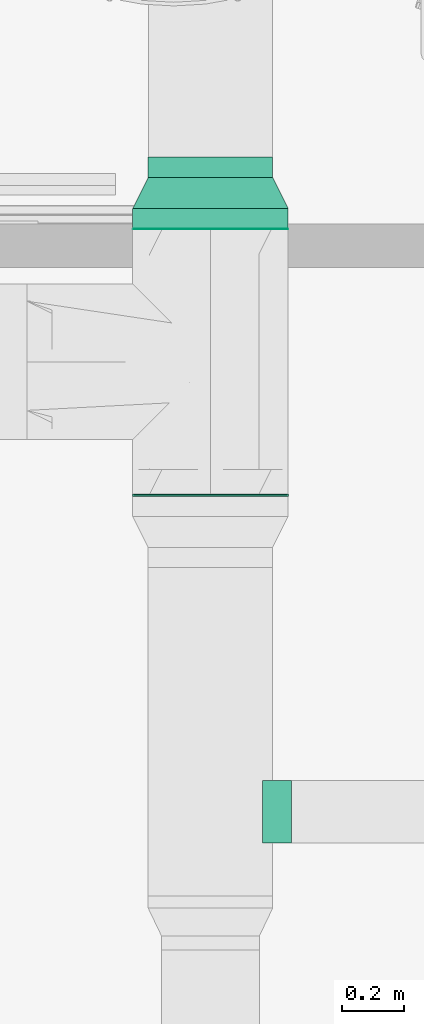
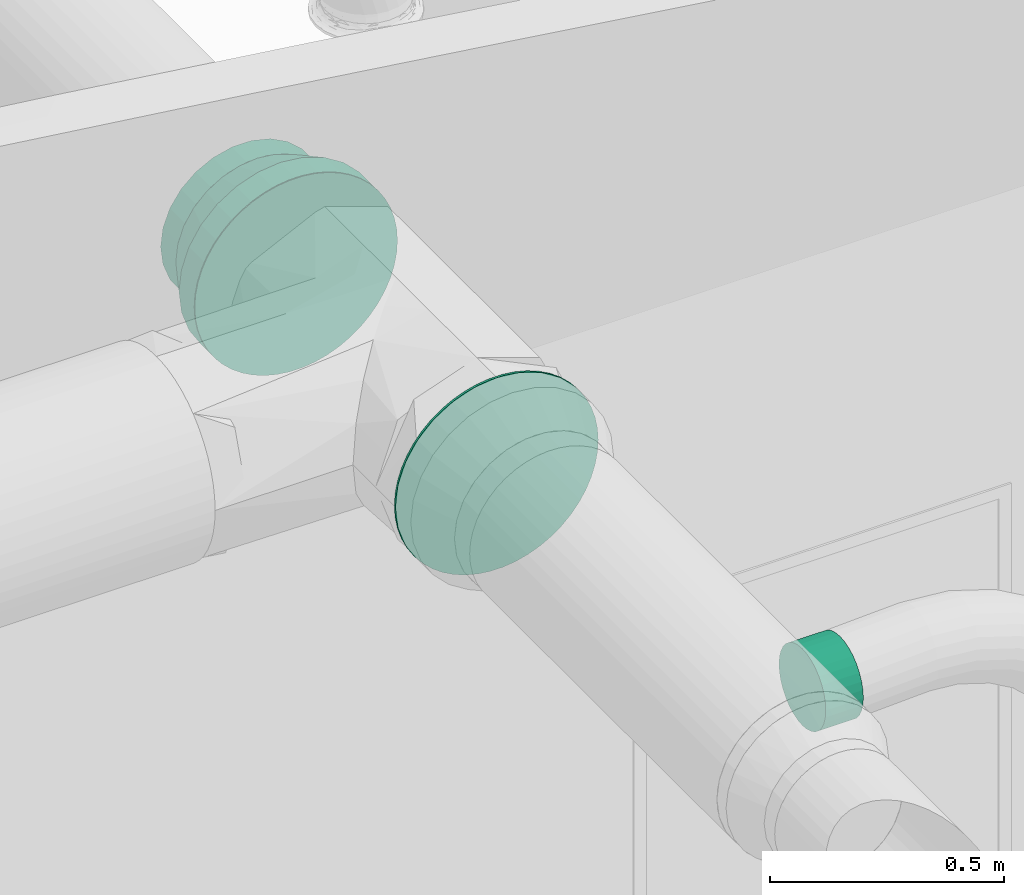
# One storey, part 12 of 31: 2 flow fittings, 2 flow segments.
"""IFC2X3 building model written with IfcOpenShell, lengths in millimetres."""

import ifcopenshell
import ifcopenshell.guid

model = None  # the IFC model being written
_history = None  # IfcOwnerHistory: only IFC2X3 demands one
_inside = {}  # id of a spatial element -> (the spatial element, [elements in it])
_under = {}  # id of a project, library or spatial element -> (it, [spatial elements below it])
_declared = {}  # id of a project -> (the project, [libraries it declares])
_typed = {}  # id of a type object -> (the type object, [elements of that type])
_made_of = {}  # id of a material, layer set ... -> (it, [elements and type objects made of it])


def new_model(schema):
    """Start an empty IFC model of exactly this schema.

    Asked for "IFC4X3", IfcOpenShell would pick the latest addendum, in which some entities
    have other attributes; the version numbers below select the first issue.
    IFC2X3 requires an IfcOwnerHistory on every rooted entity: one is made here for all.
    """
    global model, _history
    if schema == "IFC4X3":
        model = ifcopenshell.file(schema_version=(4, 3, 0, 0))
    else:
        model = ifcopenshell.file(schema=schema)
    _inside.clear()
    _under.clear()
    _declared.clear()
    _typed.clear()
    _made_of.clear()
    _history = None
    if model.schema == "IFC2X3":
        org = make("IfcOrganization", Name="unknown")
        user = make(
            "IfcPersonAndOrganization",
            ThePerson=make("IfcPerson", FamilyName="unknown"),
            TheOrganization=org,
        )
        app = make(
            "IfcApplication",
            ApplicationDeveloper=org,
            Version="unknown",
            ApplicationFullName="unknown",
            ApplicationIdentifier="unknown",
        )
        _history = make(
            "IfcOwnerHistory",
            OwningUser=user,
            OwningApplication=app,
            ChangeAction="ADDED",
            CreationDate=0,
        )
    return model


def make(cls, **values):
    """One entity of the class cls with the attributes given. An attribute that is None is left unset."""
    return model.create_entity(
        cls, **{name: value for name, value in values.items() if value is not None}
    )


def entity(cls, *values):
    """Any entity or typed value of the class cls, its attributes in the order of the schema. None: left unset."""
    e = model.create_entity(cls)
    for i, value in enumerate(values):
        if value is not None:
            e[i] = value
    return e


def rooted(cls, **values):
    """An entity with a GlobalId (a new one), such as an element, a storey or a relation."""
    return make(cls, GlobalId=ifcopenshell.guid.new(), OwnerHistory=_history, **values)


def si_unit(unit_type, name, prefix=None):
    """IfcSIUnit, for example si_unit("LENGTHUNIT", "METRE", prefix="MILLI")."""
    return make("IfcSIUnit", UnitType=unit_type, Prefix=prefix, Name=name)


def converted_unit(unit_type, name, factor, base, dimensions=None, offset=None):
    """IfcConversionBasedUnit, such as the inch: factor (a typed value) times the base unit."""
    return make(
        "IfcConversionBasedUnit"
        if offset is None
        else "IfcConversionBasedUnitWithOffset",
        ConversionOffset=offset,
        Dimensions=None
        if dimensions is None
        else entity("IfcDimensionalExponents", *dimensions),
        UnitType=unit_type,
        Name=name,
        ConversionFactor=make(
            "IfcMeasureWithUnit", ValueComponent=factor, UnitComponent=base
        ),
    )


def derived_unit(unit_type, elements):
    """IfcDerivedUnit: a product of units, each with its exponent."""
    return make(
        "IfcDerivedUnit",
        Elements=[
            make("IfcDerivedUnitElement", Unit=unit, Exponent=power)
            for unit, power in elements
        ],
        UnitType=unit_type,
    )


def assignment(units):
    """IfcUnitAssignment: the units of a project."""
    return None if units is None else make("IfcUnitAssignment", Units=units)


def point(xyz):
    """IfcCartesianPoint."""
    return None if xyz is None else make("IfcCartesianPoint", Coordinates=xyz)


def direction(xyz):
    """IfcDirection."""
    return None if xyz is None else make("IfcDirection", DirectionRatios=xyz)


def frame(location, z_axis=None, x_axis=None):
    """IfcAxis2Placement3D, a coordinate frame: its origin and axes. An axis left out is left unset."""
    return make(
        "IfcAxis2Placement3D",
        Location=point(location),
        Axis=direction(z_axis),
        RefDirection=direction(x_axis),
    )


def frame_2d(location, x_axis=None):
    """IfcAxis2Placement2D, a coordinate frame in the plane: its origin and x axis."""
    return make(
        "IfcAxis2Placement2D", Location=point(location), RefDirection=direction(x_axis)
    )


def origin():
    """The frame at (0, 0, 0) with its axes left unset."""
    return frame((0.0, 0.0, 0.0))


def origin_2d_with_axis():
    """The frame at (0, 0) in the plane with the x axis (1, 0) written out."""
    return frame_2d((0.0, 0.0), x_axis=(1.0, 0.0))


def place(relative_to, where):
    """IfcLocalPlacement: puts the frame where relative to a parent placement (None: the world)."""
    return make(
        "IfcLocalPlacement", PlacementRelTo=relative_to, RelativePlacement=where
    )


def context(
    kind, dimensions, precision=None, world=None, true_north=None, identifier=None
):
    """IfcGeometricRepresentationContext, for example the 3D "Model" context."""
    return make(
        "IfcGeometricRepresentationContext",
        ContextIdentifier=identifier,
        ContextType=kind,
        CoordinateSpaceDimension=dimensions,
        Precision=precision,
        WorldCoordinateSystem=world,
        TrueNorth=true_north,
    )


def subcontext(parent, identifier, kind, view, scale=None):
    """IfcGeometricRepresentationSubContext, for example "Body" below "Model"."""
    return make(
        "IfcGeometricRepresentationSubContext",
        ContextIdentifier=identifier,
        ContextType=kind,
        ParentContext=parent,
        TargetScale=scale,
        TargetView=view,
    )


def project(units=None, contexts=None):
    """IfcProject with its units and contexts."""
    return rooted(
        "IfcProject",
        Name="project",
        RepresentationContexts=contexts,
        UnitsInContext=assignment(units),
    )


def spatial(cls, under=None, at=None, **own):
    """A site, building, storey or space (cls), placed at a placement, below another one or the project."""
    s = rooted(cls, ObjectPlacement=at, **own)
    if under is not None:
        _under.setdefault(under.id(), (under, []))[1].append(s)
    return s


def profile(cls, at=None, kind="AREA", **sizes):
    """A parametric profile (cls). Its sizes go by their IFC names, for example OverallWidth=200.0."""
    return make(cls, ProfileType=kind, Position=at, **sizes)


def circle(**sizes):
    """IfcCircleProfileDef."""
    return profile("IfcCircleProfileDef", **sizes)


def extrude(swept, where, along, depth):
    """IfcExtrudedAreaSolid: the profile swept, set in the frame where, extruded along a direction by depth."""
    return make(
        "IfcExtrudedAreaSolid",
        SweptArea=swept,
        Position=where,
        ExtrudedDirection=direction(along),
        Depth=depth,
    )


def faces_of(points, faces, orient=None, outer=None):
    """IfcFace entities. A face is a list of loops; a loop is a list of indices into points, from 0.

    orient and outer hold one flag for each loop. By default every Orientation is true, the
    first loop of a face is its IfcFaceOuterBound and the others are IfcFaceBound.
    """
    made = []
    for i, loops in enumerate(faces):
        bounds = []
        for j, loop in enumerate(loops):
            is_outer = j == 0 if outer is None else outer[i][j]
            bounds.append(
                make(
                    "IfcFaceOuterBound" if is_outer else "IfcFaceBound",
                    Bound=make("IfcPolyLoop", Polygon=[points[k] for k in loop]),
                    Orientation=True if orient is None else orient[i][j],
                )
            )
        made.append(make("IfcFace", Bounds=bounds))
    return made


def faceted_brep(points, faces, orient=None, outer=None, voids=None):
    """IfcFacetedBrep: a solid bounded by flat faces; with voids (closed shells), ...WithVoids."""
    shared = [point(p) for p in points]
    hull = make("IfcClosedShell", CfsFaces=faces_of(shared, faces, orient, outer))
    if voids is None:
        return make("IfcFacetedBrep", Outer=hull)
    return make(
        "IfcFacetedBrepWithVoids",
        Outer=hull,
        Voids=[
            make(cls, CfsFaces=faces_of(shared, fs, o, b)) for cls, fs, o, b in voids
        ],
    )


def shape(context_of_items, identifier, shape_type, items):
    """IfcShapeRepresentation: the items that make up one representation, for example the "Body"."""
    return make(
        "IfcShapeRepresentation",
        ContextOfItems=context_of_items,
        RepresentationIdentifier=identifier,
        RepresentationType=shape_type,
        Items=items,
    )


def source(mapping_origin, context_of_items, identifier, shape_type, items):
    """IfcRepresentationMap: a shape defined once, which mapped items show again and again."""
    return make(
        "IfcRepresentationMap",
        MappingOrigin=mapping_origin,
        MappedRepresentation=shape(context_of_items, identifier, shape_type, items),
    )


def transform(
    local_origin,
    x_axis=None,
    y_axis=None,
    z_axis=None,
    scale=None,
    scale2=None,
    scale3=None,
    uniform=True,
):
    """IfcCartesianTransformationOperator3D, or its non-uniform kind. x_axis, y_axis, z_axis: its Axis1, 2, 3."""
    if uniform:
        return make(
            "IfcCartesianTransformationOperator3D",
            Axis1=direction(x_axis),
            Axis2=direction(y_axis),
            LocalOrigin=point(local_origin),
            Scale=scale,
            Axis3=direction(z_axis),
        )
    return make(
        "IfcCartesianTransformationOperator3DnonUniform",
        Axis1=direction(x_axis),
        Axis2=direction(y_axis),
        LocalOrigin=point(local_origin),
        Scale=scale,
        Axis3=direction(z_axis),
        Scale2=scale2,
        Scale3=scale3,
    )


def mapped(mapping_source, mapping_target):
    """IfcMappedItem: shows the shape of a source again, moved by a transform."""
    return make(
        "IfcMappedItem", MappingSource=mapping_source, MappingTarget=mapping_target
    )


def material(Name=None, Category=None):
    """IfcMaterial."""
    return make("IfcMaterial", Name=Name, Category=Category)


def material_list(materials):
    """IfcMaterialList."""
    return make("IfcMaterialList", Materials=materials)


def made_of(thing, what):
    """Note that an element or type object is made of a material, layer set ...; save() writes the relation."""
    if what is not None:
        _made_of.setdefault(what.id(), (what, []))[1].append(thing)
    return thing


def type_object(cls, material=None, **own):
    """A type object (cls), such as IfcWallType, which elements share."""
    return made_of(rooted(cls, **own), material)


def type_shapes(of_type, sources):
    """Give a type object the sources (RepresentationMaps) that its elements show as mapped items."""
    of_type.RepresentationMaps = sources


def element(
    cls,
    number,
    at=None,
    inside=None,
    cuts=None,
    type_object=None,
    material=None,
    context=None,
    identifier="Body",
    shape_type=None,
    held_by="IfcProductDefinitionShape",
    body=None,
    shapes=None,
    **own,
):
    """One element of the class cls, such as IfcWall. Its Tag is "e" and its number.

    at: its placement. inside: the storey or other place that contains it. cuts: it is an
    opening in that element (IfcRelVoidsElement). A single representation is given by context,
    identifier, shape_type and body (its items); several are given by shapes. held_by: the class
    of the entity that holds the representations. save() writes the other relations.
    """
    e = rooted(cls, Tag="e%d" % number, ObjectPlacement=at, **own)
    if body is not None:
        shapes = [shape(context, identifier, shape_type, body)]
    if shapes is not None:
        e.Representation = make(held_by, Representations=shapes)
    if inside is not None:
        _inside.setdefault(inside.id(), (inside, []))[1].append(e)
    if cuts is not None:
        rooted(
            "IfcRelVoidsElement", RelatingBuildingElement=cuts, RelatedOpeningElement=e
        )
    if type_object is not None:
        _typed.setdefault(type_object.id(), (type_object, []))[1].append(e)
    return made_of(e, material)


def aggregate(whole, parts):
    """IfcRelAggregates: a whole, such as a stair, and the parts it consists of."""
    return rooted("IfcRelAggregates", RelatingObject=whole, RelatedObjects=parts)


def save(model, path):
    """Write the relations noted so far, then the file.

    IfcRelAggregates (storeys below a building ...), IfcRelContainedInSpatialStructure (elements
    in a storey), IfcRelDefinesByType, IfcRelAssociatesMaterial and IfcRelDeclares: one each for
    every whole, place, type object, material and project.
    """
    for whole, parts in _under.values():
        aggregate(whole, parts)
    for where, things in _inside.values():
        rooted(
            "IfcRelContainedInSpatialStructure",
            RelatedElements=things,
            RelatingStructure=where,
        )
    for kind, things in _typed.values():
        rooted("IfcRelDefinesByType", RelatedObjects=things, RelatingType=kind)
    for what, things in _made_of.values():
        rooted("IfcRelAssociatesMaterial", RelatedObjects=things, RelatingMaterial=what)
    for by, libraries in _declared.values():
        rooted("IfcRelDeclares", RelatingContext=by, RelatedDefinitions=libraries)
    model.write(path)


model = new_model("IFC2X3")

# Units and contexts
model_context = context("Model", 3, precision=0.01, world=origin(), true_north=direction((6.123031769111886e-17, 1.0)))
body_context = subcontext(model_context, "Body", "Model", "MODEL_VIEW")
ifc_project = project(units=[si_unit("LENGTHUNIT", "METRE", prefix="MILLI"), si_unit("AREAUNIT", "SQUARE_METRE"), si_unit("VOLUMEUNIT", "CUBIC_METRE"), converted_unit("PLANEANGLEUNIT", "DEGREE", entity("IfcRatioMeasure", 0.017453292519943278), si_unit("PLANEANGLEUNIT", "RADIAN"), dimensions=[0, 0, 0, 0, 0, 0, 0]), si_unit("MASSUNIT", "GRAM", prefix="KILO"), derived_unit("MASSDENSITYUNIT", [(si_unit("MASSUNIT", "GRAM", prefix="KILO"), 1), (si_unit("LENGTHUNIT", "METRE"), -3)]), derived_unit("MOMENTOFINERTIAUNIT", [(si_unit("LENGTHUNIT", "METRE"), 4)]), si_unit("TIMEUNIT", "SECOND"), si_unit("FREQUENCYUNIT", "HERTZ"), si_unit("THERMODYNAMICTEMPERATUREUNIT", "DEGREE_CELSIUS"), derived_unit("THERMALTRANSMITTANCEUNIT", [(si_unit("MASSUNIT", "GRAM", prefix="KILO"), 1), (si_unit("THERMODYNAMICTEMPERATUREUNIT", "KELVIN"), -1), (si_unit("TIMEUNIT", "SECOND"), -3)]), derived_unit("VOLUMETRICFLOWRATEUNIT", [(si_unit("LENGTHUNIT", "METRE"), 3), (si_unit("TIMEUNIT", "SECOND"), -1)]), derived_unit("MASSFLOWRATEUNIT", [(si_unit("MASSUNIT", "GRAM", prefix="KILO"), 1), (si_unit("TIMEUNIT", "SECOND"), -1)]), derived_unit("ROTATIONALFREQUENCYUNIT", [(si_unit("TIMEUNIT", "SECOND"), -1)]), si_unit("ELECTRICCURRENTUNIT", "AMPERE"), si_unit("ELECTRICVOLTAGEUNIT", "VOLT"), si_unit("POWERUNIT", "WATT"), si_unit("FORCEUNIT", "NEWTON", prefix="KILO"), si_unit("ILLUMINANCEUNIT", "LUX"), si_unit("LUMINOUSFLUXUNIT", "LUMEN"), si_unit("LUMINOUSINTENSITYUNIT", "CANDELA"), derived_unit("USERDEFINED", [(si_unit("MASSUNIT", "GRAM", prefix="KILO"), -1), (si_unit("LENGTHUNIT", "METRE"), -2), (si_unit("TIMEUNIT", "SECOND"), 3), (si_unit("LUMINOUSFLUXUNIT", "LUMEN"), 1)]), derived_unit("SOUNDPOWERUNIT", [(si_unit("MASSUNIT", "GRAM", prefix="KILO"), 1), (si_unit("LENGTHUNIT", "METRE"), 2), (si_unit("TIMEUNIT", "SECOND"), -3)]), derived_unit("SOUNDPRESSUREUNIT", [(si_unit("MASSUNIT", "GRAM", prefix="KILO"), 1), (si_unit("LENGTHUNIT", "METRE"), -1), (si_unit("TIMEUNIT", "SECOND"), -2)]), derived_unit("LINEARVELOCITYUNIT", [(si_unit("LENGTHUNIT", "METRE"), 1), (si_unit("TIMEUNIT", "SECOND"), -1)]), si_unit("PRESSUREUNIT", "PASCAL"), derived_unit("USERDEFINED", [(si_unit("LENGTHUNIT", "METRE"), -2), (si_unit("MASSUNIT", "GRAM", prefix="KILO"), 1), (si_unit("TIMEUNIT", "SECOND"), -2)]), derived_unit("LINEARFORCEUNIT", [(si_unit("MASSUNIT", "GRAM", prefix="KILO"), 1), (si_unit("LENGTHUNIT", "METRE"), 1), (si_unit("TIMEUNIT", "SECOND"), -2), (si_unit("LENGTHUNIT", "METRE"), -1)]), derived_unit("PLANARFORCEUNIT", [(si_unit("MASSUNIT", "GRAM", prefix="KILO"), 1), (si_unit("LENGTHUNIT", "METRE"), 1), (si_unit("TIMEUNIT", "SECOND"), -2), (si_unit("LENGTHUNIT", "METRE"), -2)])], contexts=[model_context])

# Site, building, storey
site_placement = place(None, origin())
site = spatial("IfcSite", under=ifc_project, at=site_placement, Name="Default", CompositionType="ELEMENT")
building_placement = place(site_placement, origin())
building = spatial("IfcBuilding", under=site, at=building_placement, CompositionType="ELEMENT")
storey_placement = place(building_placement, frame((0.0, 0.0, 3880.0)))
storey = spatial("IfcBuildingStorey", under=building, at=storey_placement, Name="Niveau 1", CompositionType="ELEMENT", Elevation=3880.0)

# Flow segments
duct_segment_type = type_object("IfcDuctSegmentType", Name="Gaine circulaire:Té / Coude Aldes", PredefinedType="NOTDEFINED")
flow_segment_1_placement = place(storey_placement, origin())
element("IfcFlowSegment", 1, at=flow_segment_1_placement, inside=storey, type_object=duct_segment_type, Name="Gaine circulaire:Té / Coude Aldes", ObjectType="Gaine circulaire:Té / Coude Aldes", context=body_context, shape_type="SweptSolid", body=[
    extrude(circle(Radius=250.00000000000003, at=origin_2d_with_axis()), frame((-2195.0, -15005.0, 3150.0), z_axis=(0.0, 1.0, 0.0), x_axis=(-1.0, 0.0, 0.0)), (0.0, 0.0, 1.0), 5.447467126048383),
])
flow_segment_2_placement = place(storey_placement, origin())
element("IfcFlowSegment", 2, at=flow_segment_2_placement, inside=storey, type_object=duct_segment_type, Name="Gaine circulaire:Té / Coude Aldes", ObjectType="Gaine circulaire:Té / Coude Aldes", context=body_context, shape_type="SweptSolid", body=[
    extrude(circle(Radius=250.00000000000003, at=frame_2d((8.121503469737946e-13, 0.0), x_axis=(1.0, 0.0))), frame((-2195.0, -14147.552532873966, 3150.0), z_axis=(0.0, 1.0, 0.0), x_axis=(1.0, 0.0, 0.0)), (0.0, 0.0, 1.0), 2.5525328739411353),
])

# Flow fittings
ifc_material = material(Name="<Unnamed>")
ifc_material_list_1 = material_list([ifc_material, ifc_material, ifc_material])
duct_fitting_type_1 = type_object("IfcDuctFittingType", Name="Circul - Std - Reduction conique - ALDES - STANDARD - (Ba) (1):Standard", PredefinedType="NOTDEFINED", material=ifc_material_list_1)
shared_shape_1 = source(origin(), body_context, "Body", "Brep", [
    faceted_brep([(100.0, 24.107336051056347, 198.54177481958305), (100.0, 70.92097740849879, 187.00324853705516), (100.0, 113.61294934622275, 164.59677317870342), (100.0, 149.70214963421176, 132.62453164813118), (100.0, 177.09120513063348, 92.94463440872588), (100.0, 194.18836348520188, 47.86313285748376), (100.0, 200.0, 0.0), (100.0, 194.18836348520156, -47.86313285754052), (100.0, 177.09120513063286, -92.94463440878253), (100.0, 149.70214963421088, -132.62453164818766), (100.0, 113.61294934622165, -164.5967731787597), (100.0, 70.92097740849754, -187.0032485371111), (100.0, 24.107336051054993, -198.54177481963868), (100.0, -24.10733605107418, -198.54177481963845), (100.0, -70.92097740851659, -187.00324853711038), (100.0, -113.6129493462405, -164.59677317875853), (100.0, -149.70214963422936, -132.6245316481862), (100.0, -177.0912051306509, -92.9446344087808), (100.0, -194.18836348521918, -47.86313285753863), (100.0, -200.0, 0.0), (100.0, -194.18836348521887, 47.863132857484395), (100.0, -177.09120513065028, 92.94463440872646), (100.0, -149.70214963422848, 132.6245316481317), (100.0, -113.61294934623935, 164.5967731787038), (100.0, -70.92097740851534, 187.00324853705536), (100.0, -24.10733605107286, 198.5417748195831), (165.0, 70.92097740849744, -187.0032485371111), (165.0, 113.61294934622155, -164.5967731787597), (165.0, 149.70214963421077, -132.62453164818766), (165.0, 177.09120513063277, -92.94463440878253), (165.0, 194.18836348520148, -47.86313285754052), (165.0, 200.0, 0.0), (165.0, 194.18836348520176, 47.86313285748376), (165.0, 177.09120513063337, 92.94463440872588), (165.0, 149.70214963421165, 132.62453164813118), (165.0, 113.61294934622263, 164.59677317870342), (165.0, 70.92097740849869, 187.00324853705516), (165.0, 24.107336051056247, 198.54177481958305), (165.0, -24.107336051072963, 198.5417748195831), (165.0, -70.92097740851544, 187.00324853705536), (165.0, -113.61294934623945, 164.5967731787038), (165.0, -149.70214963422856, 132.6245316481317), (165.0, -177.0912051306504, 92.94463440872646), (165.0, -194.18836348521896, 47.863132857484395), (165.0, -200.0, 0.0), (165.0, -194.1883634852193, -47.86313285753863), (165.0, -177.091205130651, -92.9446344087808), (165.0, -149.70214963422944, -132.6245316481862), (165.0, -113.6129493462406, -164.59677317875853), (165.0, -70.92097740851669, -187.00324853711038), (165.0, -24.10733605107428, -198.54177481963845), (165.0, 24.107336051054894, -198.54177481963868)], [[[0, 1, 2, 3, 4, 5, 6, 7, 8, 9, 10, 11, 12, 13, 14, 15, 16, 17, 18, 19, 20, 21, 22, 23, 24, 25]], [[26, 27, 28, 29, 30, 31, 32, 33, 34, 35, 36, 37, 38, 39, 40, 41, 42, 43, 44, 45, 46, 47, 48, 49, 50, 51]], [[18, 45, 44, 19]], [[17, 46, 45, 18]], [[48, 47, 16, 15]], [[15, 14, 49, 48]], [[17, 16, 47, 46]], [[13, 50, 49, 14]], [[13, 12, 51, 50]], [[11, 26, 51, 12]], [[10, 27, 26, 11]], [[30, 29, 8, 7]], [[7, 6, 31, 30]], [[10, 9, 28, 27]], [[9, 8, 29, 28]], [[5, 32, 31, 6]], [[4, 33, 32, 5]], [[35, 34, 3, 2]], [[2, 1, 36, 35]], [[4, 3, 34, 33]], [[0, 37, 36, 1]], [[0, 25, 38, 37]], [[40, 39, 24, 23]], [[25, 24, 39, 38]], [[21, 20, 43, 42]], [[41, 22, 21, 42]], [[40, 23, 22, 41]], [[43, 20, 19, 44]]]),
    faceted_brep([(0.0, 108.47093477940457, -225.2422169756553), (0.0, 155.87245046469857, -195.45787061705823), (0.0, 195.45787061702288, -155.87245046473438), (0.0, 225.24221697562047, -108.47093477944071), (0.0, 243.7319780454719, -55.63023348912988), (0.0, 250.0, 0.0), (0.0, 243.7319780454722, 55.630233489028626), (0.0, 225.24221697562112, 108.47093477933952), (0.0, 195.45787061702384, 155.87245046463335), (0.0, 155.87245046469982, 195.45787061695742), (0.0, 108.47093477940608, 225.24221697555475), (0.0, 55.630233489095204, 243.7319780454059), (0.0, 0.0, 250.0), (0.0, -55.63023348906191, 243.73197804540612), (0.0, -108.47093477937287, 225.24221697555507), (0.0, -155.87245046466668, 195.4578706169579), (0.0, -195.4578706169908, 155.87245046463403), (0.0, -225.24221697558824, 108.47093477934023), (0.0, -243.73197804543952, 55.63023348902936), (0.0, -250.0, 0.0), (0.0, -243.73197804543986, -55.63023348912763), (0.0, -225.24221697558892, -108.47093477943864), (0.0, -195.45787061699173, -155.87245046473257), (0.0, -155.8724504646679, -195.45787061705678), (0.0, -108.47093477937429, -225.24221697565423), (0.0, -55.630233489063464, -243.7319780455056), (0.0, 0.0, -250.0), (0.0, 55.63023348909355, -243.73197804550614), (-65.0, 55.6302334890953, 243.7319780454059), (-65.0, 108.47093477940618, 225.24221697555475), (-65.0, 155.87245046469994, 195.45787061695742), (-65.0, 195.45787061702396, 155.87245046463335), (-65.0, 225.24221697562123, 108.47093477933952), (-65.0, 243.7319780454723, 55.630233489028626), (-65.0, 250.0, 0.0), (-65.0, 243.731978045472, -55.63023348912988), (-65.0, 225.24221697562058, -108.47093477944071), (-65.0, 195.45787061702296, -155.87245046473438), (-65.0, 155.8724504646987, -195.45787061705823), (-65.0, 108.47093477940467, -225.2422169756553), (-65.0, 55.63023348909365, -243.73197804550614), (-65.0, 0.0, -250.0), (-65.0, -55.63023348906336, -243.7319780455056), (-65.0, -108.47093477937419, -225.24221697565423), (-65.0, -155.8724504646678, -195.45787061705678), (-65.0, -195.45787061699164, -155.87245046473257), (-65.0, -225.2422169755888, -108.47093477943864), (-65.0, -243.73197804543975, -55.63023348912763), (-65.0, -250.0, 0.0), (-65.0, -243.7319780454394, 55.63023348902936), (-65.0, -225.24221697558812, 108.47093477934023), (-65.0, -195.4578706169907, 155.87245046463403), (-65.0, -155.87245046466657, 195.4578706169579), (-65.0, -108.47093477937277, 225.24221697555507), (-65.0, -55.6302334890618, 243.73197804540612), (-65.0, 0.0, 250.0)], [[[0, 1, 2, 3, 4, 5, 6, 7, 8, 9, 10, 11, 12, 13, 14, 15, 16, 17, 18, 19, 20, 21, 22, 23, 24, 25, 26, 27]], [[28, 29, 30, 31, 32, 33, 34, 35, 36, 37, 38, 39, 40, 41, 42, 43, 44, 45, 46, 47, 48, 49, 50, 51, 52, 53, 54, 55]], [[47, 20, 19, 48]], [[46, 21, 20, 47]], [[23, 22, 45, 44]], [[44, 43, 24, 23]], [[46, 45, 22, 21]], [[42, 25, 24, 43]], [[25, 42, 41, 26]], [[41, 40, 27, 26]], [[36, 35, 4, 3]], [[2, 37, 36, 3]], [[38, 37, 2, 1]], [[4, 35, 34, 5]], [[0, 39, 38, 1]], [[39, 0, 27, 40]], [[33, 6, 5, 34]], [[32, 7, 6, 33]], [[9, 8, 31, 30]], [[30, 29, 10, 9]], [[32, 31, 8, 7]], [[28, 11, 10, 29]], [[11, 28, 55, 12]], [[14, 53, 52, 15]], [[50, 49, 18, 17]], [[16, 51, 50, 17]], [[15, 52, 51, 16]], [[48, 19, 18, 49]], [[13, 12, 55, 54]], [[54, 53, 14, 13]]]),
    faceted_brep([(100.0, 44.504186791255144, -194.98558243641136), (100.0, 86.77674782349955, -180.19377358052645), (100.0, 124.69796037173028, -156.36629649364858), (100.0, 156.36629649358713, -124.69796037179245), (100.0, 180.19377358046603, -86.7767478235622), (100.0, 194.9855824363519, -44.50418679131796), (100.0, 200.0, 0.0), (100.0, 194.9855824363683, 44.50418679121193), (100.0, 180.19377358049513, 86.77674782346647), (100.0, 156.3662964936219, 124.69796037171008), (100.0, 124.69796037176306, 156.36629649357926), (100.0, 86.77674782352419, 180.1937735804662), (100.0, 44.50418679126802, 194.9855824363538), (100.0, 0.0, 200.0), (100.0, -44.50418679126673, 194.9855824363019), (100.0, -86.77674782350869, 180.19377358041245), (100.0, -124.69796037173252, 156.36629649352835), (100.0, -156.36629649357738, 124.69796037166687), (100.0, -180.19377358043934, 86.77674782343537), (100.0, -194.98558243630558, 44.504186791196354), (100.0, -200.0, 0.0), (100.0, -194.9855824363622, -44.504186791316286), (100.0, -180.1937735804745, -86.77674782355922), (100.0, -156.366296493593, -124.69796037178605), (100.0, -124.69796037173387, -156.36629649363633), (100.0, -86.77674782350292, -180.19377358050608), (100.0, -44.50418679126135, -194.9855824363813), (100.0, 0.0, -200.0), (0.0, -55.63023348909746, -243.73197804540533), (0.0, -108.47093477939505, -225.24221697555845), (0.0, -155.87245046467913, -195.45787061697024), (0.0, -195.45787061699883, -155.8724504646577), (0.0, -225.24221697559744, -108.47093477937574), (0.0, -243.73197804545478, -55.63023348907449), (0.0, -250.0, 0.0), (0.0, -243.73197804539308, 55.63023348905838), (0.0, -225.24221697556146, 108.47093477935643), (0.0, -195.45787061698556, 155.87245046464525), (0.0, -155.87245046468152, 195.45787061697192), (0.0, -108.47093477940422, 225.2422169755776), (0.0, -55.63023348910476, 243.7319780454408), (0.0, 0.0, 250.0), (0.0, 55.630233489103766, 243.73197804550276), (0.0, 108.47093477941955, 225.24221697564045), (0.0, 155.8724504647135, 195.45787061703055), (0.0, 195.45787061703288, 155.87245046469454), (0.0, 225.24221697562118, 108.47093477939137), (0.0, 243.7319780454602, 55.63023348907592), (0.0, 250.0, 0.0), (0.0, 243.7319780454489, -55.63023348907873), (0.0, 225.24221697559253, -108.47093477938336), (0.0, 195.45787061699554, -155.87245046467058), (0.0, 155.87245046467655, -195.45787061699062), (0.0, 108.4709347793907, -225.24221697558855), (0.0, 55.63023348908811, -243.73197804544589), (0.0, 0.0, -250.0)], [[[0, 1, 2, 3, 4, 5, 6, 7, 8, 9, 10, 11, 12, 13, 14, 15, 16, 17, 18, 19, 20, 21, 22, 23, 24, 25, 26, 27]], [[28, 29, 30, 31, 32, 33, 34, 35, 36, 37, 38, 39, 40, 41, 42, 43, 44, 45, 46, 47, 48, 49, 50, 51, 52, 53, 54, 55]], [[13, 12, 42, 41]], [[11, 10, 44, 43]], [[12, 11, 43, 42]], [[10, 9, 45, 44]], [[9, 8, 46, 45]], [[7, 6, 48, 47]], [[8, 7, 47, 46]], [[20, 19, 35, 34]], [[18, 17, 37, 36]], [[19, 18, 36, 35]], [[17, 16, 38, 37]], [[16, 15, 39, 38]], [[14, 13, 41, 40]], [[15, 14, 40, 39]], [[27, 26, 28, 55]], [[25, 24, 30, 29]], [[26, 25, 29, 28]], [[24, 23, 31, 30]], [[23, 22, 32, 31]], [[21, 20, 34, 33]], [[22, 21, 33, 32]], [[6, 5, 49, 48]], [[4, 3, 51, 50]], [[5, 4, 50, 49]], [[3, 2, 52, 51]], [[2, 1, 53, 52]], [[0, 27, 55, 54]], [[1, 0, 54, 53]]]),
])
type_shapes(duct_fitting_type_1, [shared_shape_1])
flow_fitting_1_placement = place(storey_placement, frame((-2195.0, -14080.0, 3150.0), z_axis=(0.0, 0.0, 1.0), x_axis=(0.0, 1.0, 0.0)))
element("IfcFlowFitting", 3, at=flow_fitting_1_placement, inside=storey, type_object=duct_fitting_type_1, material=ifc_material, Name="Circul - Std - Reduction conique - ALDES - STANDARD - (Ba) (1):Standard", ObjectType="Circul - Std - Reduction conique - ALDES - STANDARD - (Ba) (1):Standard", context=body_context, shape_type="MappedRepresentation", body=[
    mapped(shared_shape_1, transform((0.0, 0.0, 0.0), scale=1.0)),
])
ifc_material_list_2 = material_list([ifc_material, ifc_material, ifc_material])
ifc_material_list_3 = material_list([ifc_material, ifc_material, ifc_material])
duct_fitting_type_2 = type_object("IfcDuctFittingType", Name="Piquage Aldes:Standard", PredefinedType="NOTDEFINED", material=ifc_material_list_3)
shared_shape_2 = source(origin(), body_context, "Body", "SweptSolid", [
    extrude(circle(Radius=99.99999999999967, at=frame_2d((-2.057646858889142e-13, -7.948734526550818e-14), x_axis=(1.0, 0.0))), frame((10.0, 0.0, 0.0), z_axis=(1.0, 0.0, 0.0), x_axis=(0.0, -1.0, 0.0)), (0.0, 0.0, 1.0), 50.00000000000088),
    extrude(circle(Radius=99.99999999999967, at=frame_2d((-2.057646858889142e-13, -7.948734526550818e-14), x_axis=(1.0, 0.0))), frame((0.0, 0.0, 0.0), z_axis=(1.0, 0.0, 0.0), x_axis=(0.0, -1.0, 0.0)), (0.0, 0.0, 1.0), 10.000000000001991),
    extrude(circle(Radius=99.99999999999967, at=frame_2d((-2.0644288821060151e-13, -2.4268639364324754e-13), x_axis=(1.0, 0.0))), frame((-32.89091924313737, 0.0, 0.0), z_axis=(1.0, 0.0, 0.0), x_axis=(0.0, -1.0, 0.0)), (0.0, 0.0, 1.0), 32.89091924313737),
])
type_shapes(duct_fitting_type_2, [shared_shape_2])
flow_fitting_2_placement = place(storey_placement, frame((-1995.0, -16020.0, 3150.0), z_axis=(0.0, 0.0, -1.0), x_axis=(1.0, 0.0, 0.0)))
element("IfcFlowFitting", 4, at=flow_fitting_2_placement, inside=storey, type_object=duct_fitting_type_2, material=ifc_material_list_2, Name="Piquage Aldes:Standard", ObjectType="Piquage Aldes:Standard", context=body_context, shape_type="MappedRepresentation", body=[
    mapped(shared_shape_2, transform((0.0, 0.0, 0.0), scale=1.0)),
])

save(model, "model.ifc")
